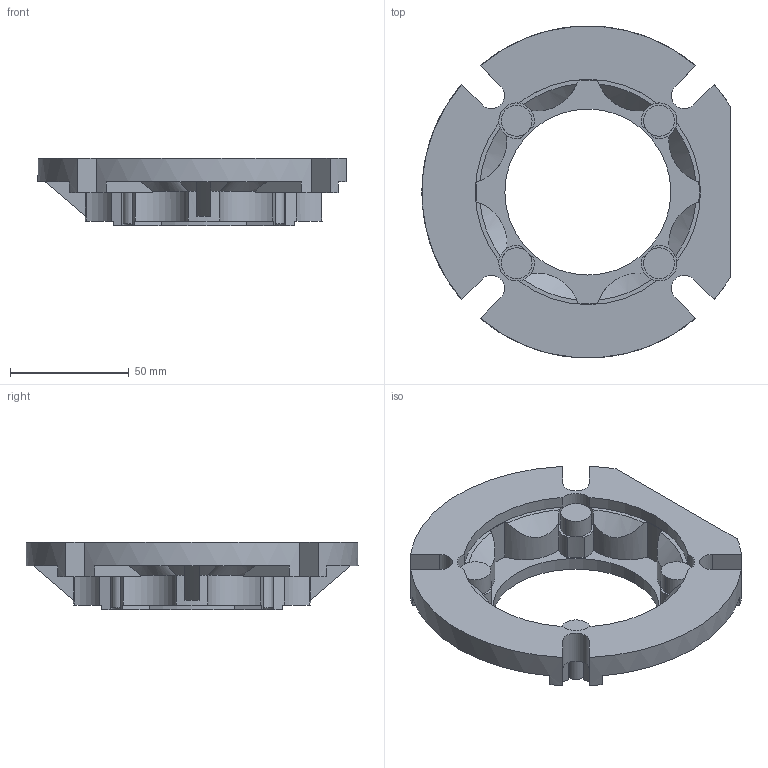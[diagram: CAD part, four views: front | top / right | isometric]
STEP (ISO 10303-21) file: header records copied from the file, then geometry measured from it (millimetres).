
FILE_DESCRIPTION(/* description */ (''),/* implementation_level */ '2;1');
FILE_NAME(/* name */ '3_FLANGIA (CAMPANA) LATERALE FD NMRV050',/* time_stamp */ '2025-10-09T14:37:49+02:00',/* author */ (''),/* organization */ (''),/* preprocessor_version */ 'ST-DEVELOPER v19.2',/* originating_system */ 'Rhino 8.23',/* authorisation */ '');
FILE_SCHEMA (('CONFIG_CONTROL_DESIGN'));
Length unit declared in the file: millimetre
Products named in the file (2): Document; FU 50FD
Bounding box: 130 x 140 x 28.5 mm (x, y, z)
Volume: 114811.9 mm3; surface area: 45385.5 mm2
Topology: 1 solids, 1 shells, 187 faces, 512 edges, 332 vertices
Faces by surface type: cylinder 83, plane 70, bspline 34
Entity records: 8422 total; most frequent: CARTESIAN_POINT 2375, ORIENTED_EDGE 1024, DIRECTION 637, EDGE_CURVE 512, AXIS2_PLACEMENT_3D 395, VERTEX_POINT 332, B_SPLINE_CURVE_WITH_KNOTS 274, TRIMMED_CURVE 238
